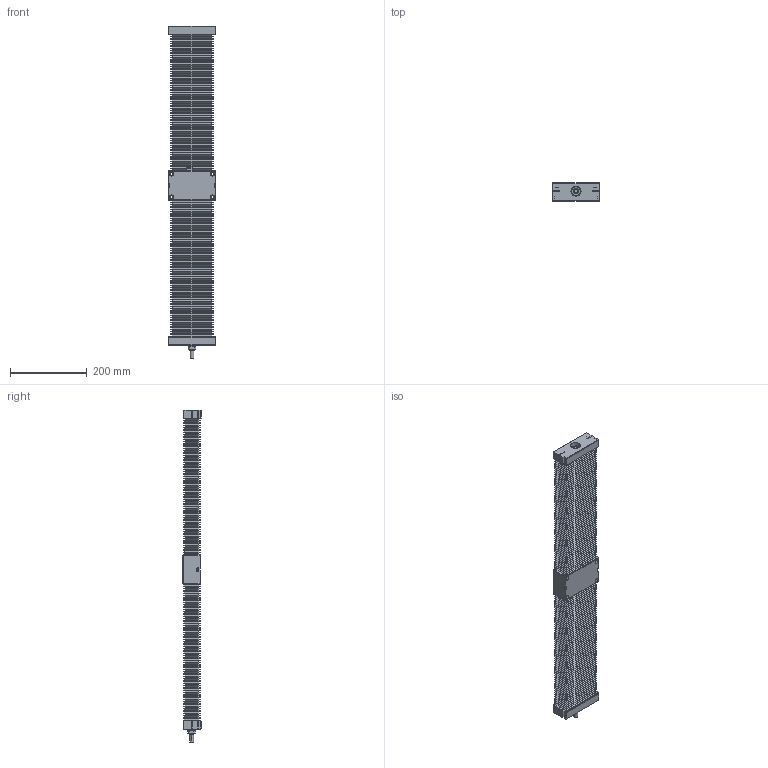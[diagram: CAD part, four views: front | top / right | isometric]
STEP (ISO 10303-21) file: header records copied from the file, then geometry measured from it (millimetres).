
FILE_DESCRIPTION (( 'STEP AP214' ), '1' );
FILE_NAME ('TKC1610B-450H0C-Ä£×é.step', '2025-08-25T08:38:26', ( '' ), ( '' ), 'SwSTEP 2.0', 'SolidWorks 2024', '' );
FILE_SCHEMA (( 'AUTOMOTIVE_DESIGN' ));
Length unit declared in the file: millimetre
Products named in the file (4): TKC16-02; TKC1610B-450H0C-模组; TKC16-450-01; TKC16-450-03
Assembly tree (4 placements, depth 2):
  TKC1610B-450H0C-模组
    TKC16-02
    TKC16-450-01
    TKC16-450-03  x2
Bounding box: 122 x 48 x 862.5 mm (x, y, z)
Volume: 2409989.8 mm3; surface area: 843616.4 mm2
Topology: 10 solids, 14 shells, 2252 faces, 4960 edges, 2775 vertices
Faces by surface type: plane 1744, cylinder 433, cone 36, torus 28, bspline 11
Entity records: 52511 total; most frequent: CARTESIAN_POINT 19350, ORIENTED_EDGE 6856, DIRECTION 6464, EDGE_CURVE 3428, VECTOR 2464, LINE 2464, VERTEX_POINT 2015, AXIS2_PLACEMENT_3D 2000
